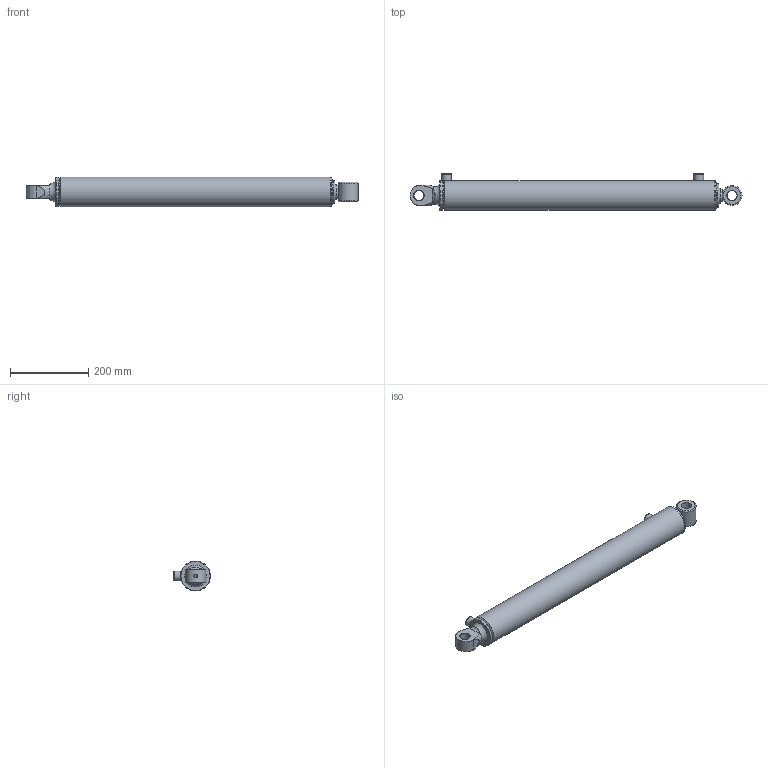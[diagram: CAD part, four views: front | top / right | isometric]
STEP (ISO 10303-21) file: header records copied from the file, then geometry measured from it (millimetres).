
FILE_DESCRIPTION(/* description */ ('Alibre Inc.'),/* implementation_level */ '2;1');
FILE_NAME(/* name */ 'export0',/* time_stamp */ '2016-08-16T09:58:01+12:00',/* author */ (''),/* organization */ (''),/* preprocessor_version */ 'ST-DEVELOPER v14',/* originating_system */ 'Alibre',/* authorisation */ '');
FILE_SCHEMA (('AUTOMOTIVE_DESIGN'));
Length unit declared in the file: centimetre
Bounding box: 846.13 x 94.2 x 76.2 mm (x, y, z)
Volume: 2129871.5 mm3; surface area: 489804.3 mm2
Topology: 12 solids, 12 shells, 150 faces, 308 edges, 192 vertices
Faces by surface type: cylinder 55, plane 51, cone 28, torus 13, sphere 2, bspline 1
Full cylindrical faces by diameter (mm): 2.5 x2, 7 x3, 8.3 x2, 8.8 x1, 15.25 x2, 23 x1, 23.622 x1, 25 x2, 25.4 x2, 25.45 x1, 38.1 x1, 38.18 x2, 38.35 x1, 44.45 x1, 47.62 x2, 47.63 x1, 48 x2, 50.8 x1, 56.5 x1, 57.66 x1, 58.9 x2, 59.87 x2, 60.2 x1, 62.13 x2, 63.39 x2, 63.4 x1, 63.5 x2, 66.7 x1, 76.2 x3
Entity records: 4139 total; most frequent: CARTESIAN_POINT 1185, DIRECTION 569, ORIENTED_EDGE 394, AXIS2_PLACEMENT_3D 300, FACE_BOUND 271, EDGE_LOOP 269, EDGE_CURVE 197, VERTEX_POINT 174
